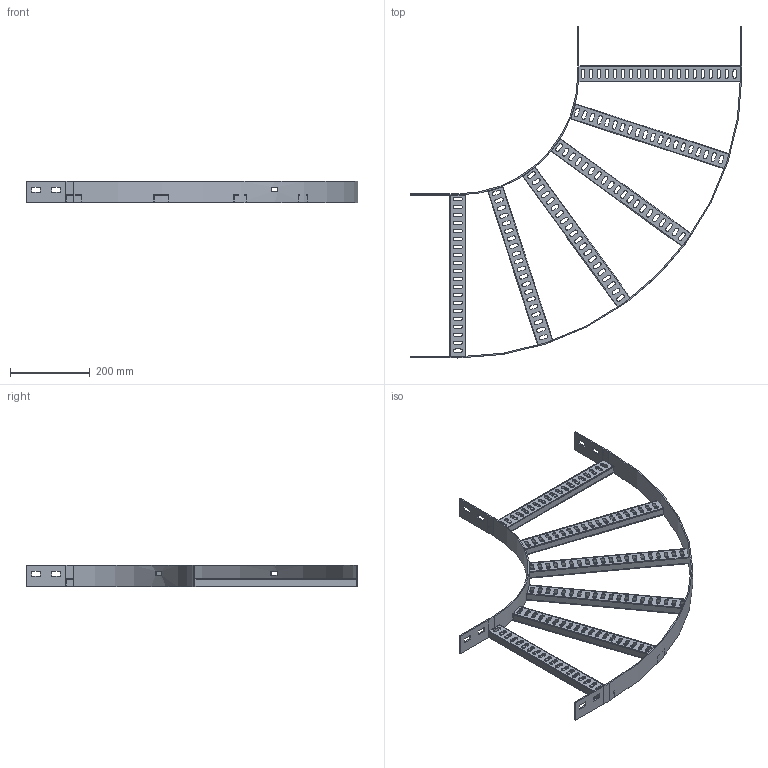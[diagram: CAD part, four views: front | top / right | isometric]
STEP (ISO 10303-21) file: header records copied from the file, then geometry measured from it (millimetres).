
FILE_DESCRIPTION(/* description */ ('','CAx-IF Rec.Pracs.---Representation and Presentation of Product Manufacturing Information (PMI)---4.0---2014-10-13'),/* implementation_level */ '2;1');
FILE_NAME(/* name */ 'Eurostrut_EFB60-400-90-300_Bend 90 for Cable Ladder ECL.step',/* time_stamp */ '2026-09-03T08:40:02+02:00',/* author */ (''),/* organization */ (''),/* preprocessor_version */ 'ST-DEVELOPER v20.1',/* originating_system */ 'Autodesk Revit 2027 27.2.0.39',/* authorisation */ '');
FILE_SCHEMA (('AP242_MANAGED_MODEL_BASED_3D_ENGINEERING_MIM_LF { 1 0 10303 442 2 1 4 }'));
Length unit declared in the file: millimetre
Products named in the file (6): TopLevelAssembly; Sweep; Extrusion; Extrusion_1; Eurostrut_Cable Ladder_Rung_Horizontal Bend_With slots; Eurostrut_Cable Ladder_Accessory End_54-94-142
Assembly tree (8 placements, depth 2):
  TopLevelAssembly
    Sweep
    Extrusion
    Extrusion_1
    Eurostrut_Cable Ladder_Rung_Horizontal Bend_With slots
    Eurostrut_Cable Ladder_Accessory End_54-94-142  x4
Bounding box: 831 x 831 x 54 mm (x, y, z)
Volume: 625376 mm3; surface area: 652041.4 mm2
Topology: 16 solids, 16 shells, 688 faces, 1968 edges, 1312 vertices
Faces by surface type: plane 420, bspline 240, cylinder 28
Entity records: 28620 total; most frequent: CARTESIAN_POINT 11200, ORIENTED_EDGE 3720, DIRECTION 3244, EDGE_CURVE 1860, LINE 1316, VECTOR 1316, VERTEX_POINT 1240, AXIS2_PLACEMENT_3D 964
